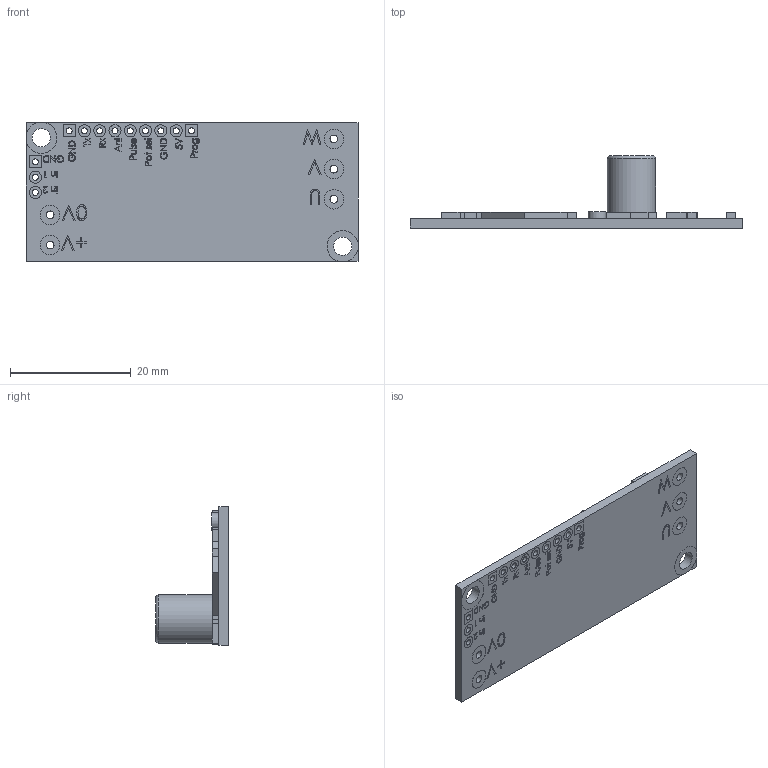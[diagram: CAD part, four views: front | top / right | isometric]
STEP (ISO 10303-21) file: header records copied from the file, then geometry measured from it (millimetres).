
FILE_DESCRIPTION (( 'STEP AP214' ), '1' );
FILE_NAME ('P-2151-B EQi-UART WITHOUR HEADERS REV 1.STEP', '2023-01-19T10:06:42', ( '' ), ( '' ), 'SwSTEP 2.0', 'SolidWorks 2021', '' );
FILE_SCHEMA (( 'AUTOMOTIVE_DESIGN' ));
Length unit declared in the file: millimetre
Products named in the file (1): P-2151-B EQi-UART WITHOUR HEADERS REV 1
Bounding box: 55.1 x 12.06 x 23 mm (x, y, z)
Volume: 2711.9 mm3; surface area: 3332.7 mm2
Topology: 1 solids, 1 shells, 797 faces, 2078 edges, 1395 vertices
Faces by surface type: plane 522, bspline 217, cylinder 57, torus 1
Full cylindrical faces by diameter (mm): 1 x12, 1.3 x5, 2 x18, 2.9 x1, 3.05 x2, 3.25 x10, 8 x1
Entity records: 37639 total; most frequent: CARTESIAN_POINT 17074, ORIENTED_EDGE 3996, DIRECTION 2841, EDGE_CURVE 1998, VECTOR 1449, LINE 1449, VERTEX_POINT 1365, EDGE_LOOP 997
